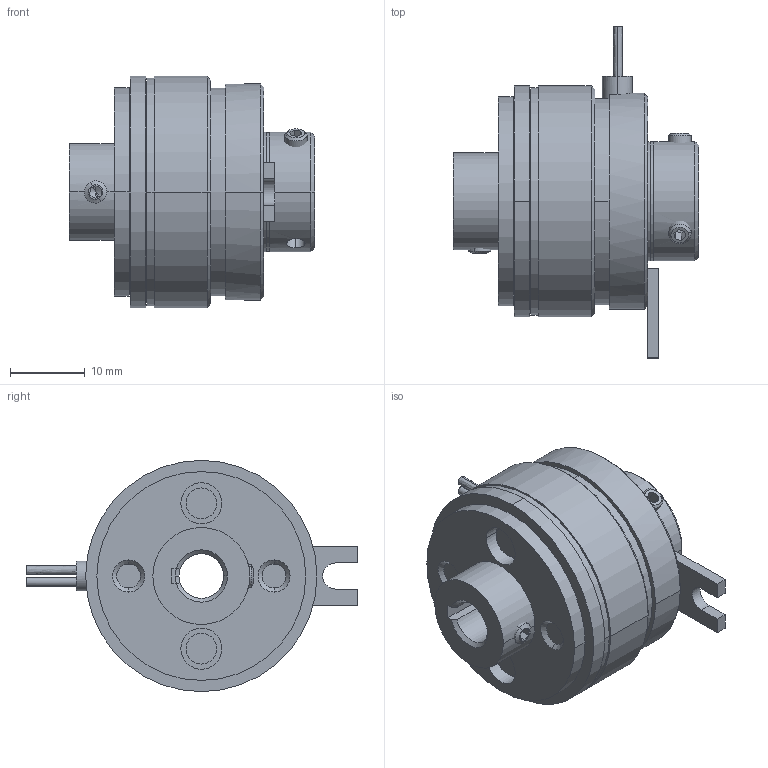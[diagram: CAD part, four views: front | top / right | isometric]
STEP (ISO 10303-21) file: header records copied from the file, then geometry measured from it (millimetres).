
FILE_DESCRIPTION((''),'2;1');
FILE_NAME('G:\Konstruktion\Datenkonvertierung\step\14.100.02.301.stp','2004-01-30T08:09:28',('schöttelndreier'),(''),'Autodesk Inventor 8','Autodesk Inventor 8','');
FILE_SCHEMA(('AUTOMOTIVE_DESIGN { 1 0 10303 214 1 1 1 1 }'));
Length unit declared in the file: millimetre
Products named in the file (23): 14.100.02.301; 14.100.02.995-001 dxf; 14.100.02.999-001 dxf; 14.102.02-18.202 dxf; Abdeck; Spule_02 dxf; Lager; 14.100.02.996-001 dxf; 14.100.02.992-154 dxf; 14.100.02.992-300 dxf; Spritzmasse; Reibbelag_02 dxf; 14.100.02.991-300; 14.100.02.991-251; DIN 916  (Regelgewinde) M3  x  6; 14.100.02.001-001; 14.100.02.003-001; 14.100.02.993-001; 30.4.101-142; Niete; 14.100.02.993-200; Niete2; DIN 916  (Regelgewinde) M3  x  4
Assembly tree (26 placements, depth 4):
  14.100.02.301
    14.100.02.995-001 dxf
      14.100.02.999-001 dxf
      14.102.02-18.202 dxf
      Abdeck
      Spule_02 dxf
      Lager
    14.100.02.996-001 dxf
      14.100.02.992-154 dxf
      14.100.02.992-300 dxf
      Spritzmasse
      Reibbelag_02 dxf
    14.100.02.991-300  x2
    14.100.02.991-251
    DIN 916  (Regelgewinde) M3  x  6  x2
    14.100.02.001-001
      14.100.02.003-001
        14.100.02.993-001
        30.4.101-142
        Niete  x2
      14.100.02.993-200
      Niete2  x2
      DIN 916  (Regelgewinde) M3  x  4
Bounding box: 32.85 x 44.5 x 31 mm (x, y, z)
Volume: 13914.6 mm3; surface area: 18483.9 mm2
Topology: 22 solids, 22 shells, 343 faces, 782 edges, 486 vertices
Faces by surface type: cylinder 152, plane 115, cone 69, bspline 5, torus 2
Entity records: 9761 total; most frequent: CARTESIAN_POINT 2166, DIRECTION 1611, ORIENTED_EDGE 1352, EDGE_CURVE 676, AXIS2_PLACEMENT_3D 659, VERTEX_POINT 430, EDGE_LOOP 368, CIRCLE 321
